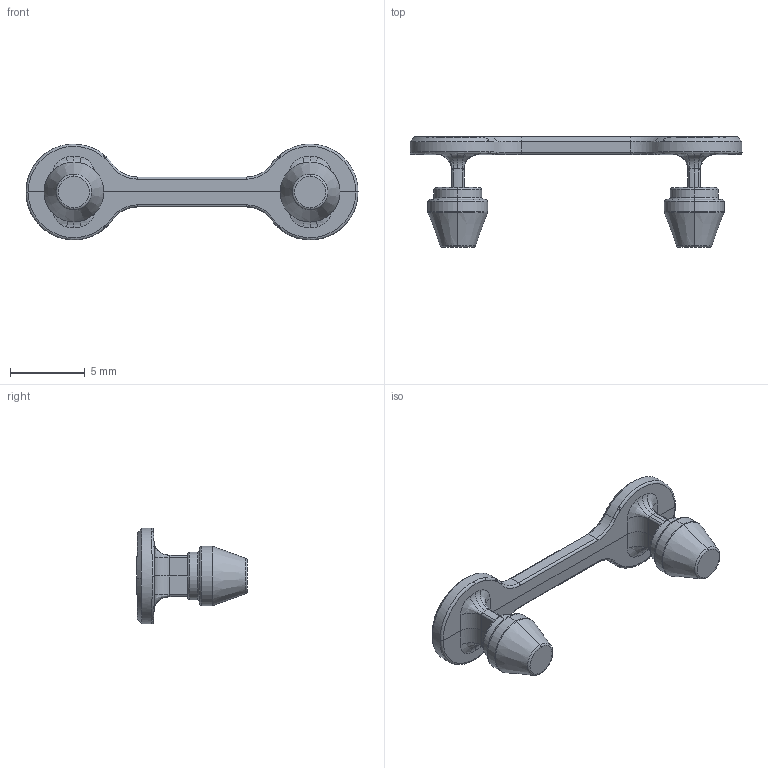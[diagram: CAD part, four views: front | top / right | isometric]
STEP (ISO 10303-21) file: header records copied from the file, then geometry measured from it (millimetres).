
FILE_DESCRIPTION((''),'2;1');
FILE_NAME('16206632_ACL-BRIDGE_LLE16','2023-02-08T09:22:24',('Bernhard.Fink'),(''),'CREO PARAMETRIC BY PTC INC, 2021184','CREO PARAMETRIC BY PTC INC, 2021184','');
FILE_SCHEMA(('CONFIG_CONTROL_DESIGN'));
Length unit declared in the file: millimetre
Products named in the file (1): 16206632_ACL-BRIDGE_LLE16
Bounding box: 22.2 x 7.4 x 6.4 mm (x, y, z)
Volume: 180.2 mm3; surface area: 349.9 mm2
Topology: 1 solids, 1 shells, 132 faces, 307 edges, 181 vertices
Faces by surface type: bspline 44, cylinder 38, torus 24, plane 22, cone 4
Entity records: 6078 total; most frequent: CARTESIAN_POINT 3368, ORIENTED_EDGE 614, DIRECTION 468, EDGE_CURVE 307, AXIS2_PLACEMENT_3D 189, VERTEX_POINT 181, EDGE_LOOP 136, FACE_OUTER_BOUND 132
